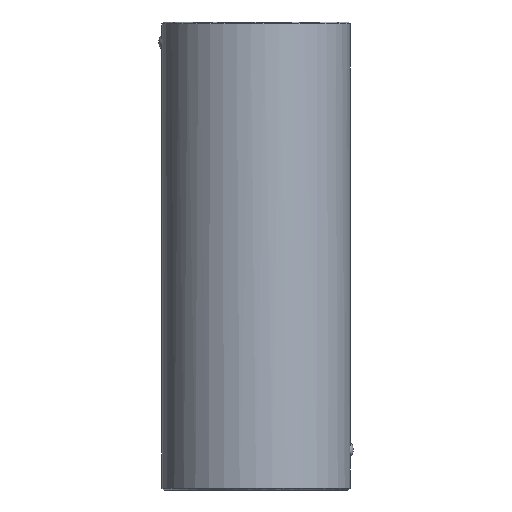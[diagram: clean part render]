
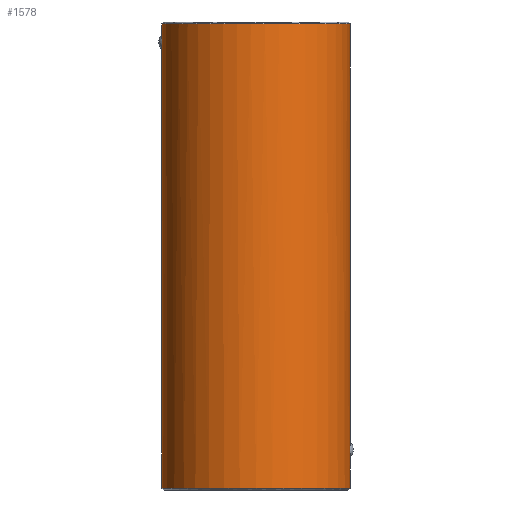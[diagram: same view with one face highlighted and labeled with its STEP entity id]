
A CAD part, front view. The second image highlights one B-rep face of the part: STEP entity #1578.
In plain terms, the highlighted cylindrical face has radius 14.5 mm (diameter 29 mm), a partial arc.
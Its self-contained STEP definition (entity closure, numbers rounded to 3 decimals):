
#1348=CARTESIAN_POINT('Vertex',(-14.5,0.,0.3)) ;
#1355=CARTESIAN_POINT('Vertex',(14.5,0.,0.3)) ;
#1358=CARTESIAN_POINT('Axis2P3D Location',(0.,0.,0.3)) ;
#1476=CARTESIAN_POINT('Axis2P3D Location',(0.,0.,72.)) ;
#1481=CARTESIAN_POINT('Line Origine',(14.5,0.,72.)) ;
#1485=CARTESIAN_POINT('Vertex',(14.5,0.,5.082)) ;
#1489=CARTESIAN_POINT('Control Point',(14.454,-1.158,6.201)) ;
#1490=CARTESIAN_POINT('Control Point',(14.454,-1.158,5.843)) ;
#1491=CARTESIAN_POINT('Control Point',(14.466,-1.009,5.481)) ;
#1492=CARTESIAN_POINT('Control Point',(14.489,-0.712,5.214)) ;
#1493=CARTESIAN_POINT('Control Point',(14.5,-0.358,5.082)) ;
#1494=CARTESIAN_POINT('Control Point',(14.5,0.,5.082)) ;
#1495=CARTESIAN_POINT('Vertex',(14.454,-1.158,6.201)) ;
#1499=CARTESIAN_POINT('Control Point',(14.5,0.,7.318)) ;
#1500=CARTESIAN_POINT('Control Point',(14.5,-0.358,7.318)) ;
#1501=CARTESIAN_POINT('Control Point',(14.489,-0.717,7.185)) ;
#1502=CARTESIAN_POINT('Control Point',(14.466,-1.009,6.916)) ;
#1503=CARTESIAN_POINT('Control Point',(14.454,-1.158,6.558)) ;
#1504=CARTESIAN_POINT('Control Point',(14.454,-1.158,6.201)) ;
#1505=CARTESIAN_POINT('Vertex',(14.5,0.,7.318)) ;
#1508=CARTESIAN_POINT('Line Origine',(14.5,0.,72.)) ;
#1512=CARTESIAN_POINT('Vertex',(14.5,0.,71.7)) ;
#1516=CARTESIAN_POINT('Control Point',(-14.5,0.,71.7)) ;
#1517=CARTESIAN_POINT('Control Point',(-14.5,-2.278,71.7)) ;
#1518=CARTESIAN_POINT('Control Point',(-14.053,-4.555,71.7)) ;
#1519=CARTESIAN_POINT('Control Point',(-13.158,-6.716,71.7)) ;
#1520=CARTESIAN_POINT('Control Point',(-10.569,-10.569,71.7)) ;
#1521=CARTESIAN_POINT('Control Point',(-6.716,-13.158,71.7)) ;
#1522=CARTESIAN_POINT('Control Point',(-4.555,-14.053,71.7)) ;
#1523=CARTESIAN_POINT('Control Point',(0.,-14.947,71.7)) ;
#1524=CARTESIAN_POINT('Control Point',(4.555,-14.053,71.7)) ;
#1525=CARTESIAN_POINT('Control Point',(6.716,-13.158,71.7)) ;
#1526=CARTESIAN_POINT('Control Point',(10.569,-10.569,71.7)) ;
#1527=CARTESIAN_POINT('Control Point',(13.158,-6.716,71.7)) ;
#1528=CARTESIAN_POINT('Control Point',(14.053,-4.555,71.7)) ;
#1529=CARTESIAN_POINT('Control Point',(14.5,-2.278,71.7)) ;
#1530=CARTESIAN_POINT('Control Point',(14.5,0.,71.7)) ;
#1531=CARTESIAN_POINT('Vertex',(-14.5,0.,71.7)) ;
#1534=CARTESIAN_POINT('Line Origine',(-14.5,0.,72.)) ;
#1538=CARTESIAN_POINT('Vertex',(-14.5,0.,70.018)) ;
#1542=CARTESIAN_POINT('Control Point',(-14.454,-1.158,68.899)) ;
#1543=CARTESIAN_POINT('Control Point',(-14.454,-1.158,69.257)) ;
#1544=CARTESIAN_POINT('Control Point',(-14.466,-1.009,69.619)) ;
#1545=CARTESIAN_POINT('Control Point',(-14.489,-0.712,69.886)) ;
#1546=CARTESIAN_POINT('Control Point',(-14.5,-0.358,70.018)) ;
#1547=CARTESIAN_POINT('Control Point',(-14.5,0.,70.018)) ;
#1548=CARTESIAN_POINT('Vertex',(-14.454,-1.158,68.899)) ;
#1552=CARTESIAN_POINT('Control Point',(-14.5,0.,67.782)) ;
#1553=CARTESIAN_POINT('Control Point',(-14.5,-0.358,67.782)) ;
#1554=CARTESIAN_POINT('Control Point',(-14.489,-0.717,67.915)) ;
#1555=CARTESIAN_POINT('Control Point',(-14.466,-1.009,68.184)) ;
#1556=CARTESIAN_POINT('Control Point',(-14.454,-1.158,68.542)) ;
#1557=CARTESIAN_POINT('Control Point',(-14.454,-1.158,68.899)) ;
#1558=CARTESIAN_POINT('Vertex',(-14.5,0.,67.782)) ;
#1561=CARTESIAN_POINT('Line Origine',(-14.5,0.,72.)) ;
#1359=DIRECTION('Axis2P3D Direction',(0.,-0.,1.)) ;
#1477=DIRECTION('Axis2P3D Direction',(0.,0.,-1.)) ;
#1478=DIRECTION('Axis2P3D XDirection',(1.,0.,0.)) ;
#1482=DIRECTION('Vector Direction',(0.,0.,-1.)) ;
#1509=DIRECTION('Vector Direction',(0.,0.,-1.)) ;
#1535=DIRECTION('Vector Direction',(0.,0.,-1.)) ;
#1562=DIRECTION('Vector Direction',(0.,0.,-1.)) ;
#1360=AXIS2_PLACEMENT_3D('Circle Axis2P3D',#1358,#1359,$) ;
#1479=AXIS2_PLACEMENT_3D('Cylinder Axis2P3D',#1476,#1477,#1478) ;
#1567=ORIENTED_EDGE('',*,*,#1487,.T.) ;
#1568=ORIENTED_EDGE('',*,*,#1497,.F.) ;
#1569=ORIENTED_EDGE('',*,*,#1507,.F.) ;
#1570=ORIENTED_EDGE('',*,*,#1514,.T.) ;
#1571=ORIENTED_EDGE('',*,*,#1533,.F.) ;
#1572=ORIENTED_EDGE('',*,*,#1540,.T.) ;
#1573=ORIENTED_EDGE('',*,*,#1550,.F.) ;
#1574=ORIENTED_EDGE('',*,*,#1560,.F.) ;
#1575=ORIENTED_EDGE('',*,*,#1565,.T.) ;
#1576=ORIENTED_EDGE('',*,*,#1362,.T.) ;
#1483=VECTOR('Line Direction',#1482,1.) ;
#1510=VECTOR('Line Direction',#1509,1.) ;
#1536=VECTOR('Line Direction',#1535,1.) ;
#1563=VECTOR('Line Direction',#1562,1.) ;
#1578=ADVANCED_FACE('730-24x72',(#1577),#1480,.T.) ;
#1488=B_SPLINE_CURVE_WITH_KNOTS('',5,(#1489,#1490,#1491,#1492,#1493,#1494),.UNSPECIFIED.,.F.,.U.,(6,6),(0.,2.538),.UNSPECIFIED.) ;
#1498=B_SPLINE_CURVE_WITH_KNOTS('',5,(#1499,#1500,#1501,#1502,#1503,#1504),.UNSPECIFIED.,.F.,.U.,(6,6),(0.,2.539),.UNSPECIFIED.) ;
#1515=B_SPLINE_CURVE_WITH_KNOTS('',5,(#1516,#1517,#1518,#1519,#1520,#1521,#1522,#1523,#1524,#1525,#1526,#1527,#1528,#1529,#1530),.UNSPECIFIED.,.F.,.U.,(6,3,3,3,6),(-22.777,-11.388,0.,11.388,22.777),.UNSPECIFIED.) ;
#1541=B_SPLINE_CURVE_WITH_KNOTS('',5,(#1542,#1543,#1544,#1545,#1546,#1547),.UNSPECIFIED.,.F.,.U.,(6,6),(0.,2.538),.UNSPECIFIED.) ;
#1551=B_SPLINE_CURVE_WITH_KNOTS('',5,(#1552,#1553,#1554,#1555,#1556,#1557),.UNSPECIFIED.,.F.,.U.,(6,6),(0.,2.539),.UNSPECIFIED.) ;
#1361=CIRCLE('generated circle',#1360,14.5) ;
#1480=CYLINDRICAL_SURFACE('generated cylinder',#1479,14.5) ;
#1362=EDGE_CURVE('',#1349,#1356,#1361,.T.) ;
#1487=EDGE_CURVE('',#1356,#1486,#1484,.F.) ;
#1497=EDGE_CURVE('',#1496,#1486,#1488,.T.) ;
#1507=EDGE_CURVE('',#1506,#1496,#1498,.T.) ;
#1514=EDGE_CURVE('',#1506,#1513,#1511,.F.) ;
#1533=EDGE_CURVE('',#1532,#1513,#1515,.T.) ;
#1540=EDGE_CURVE('',#1532,#1539,#1537,.T.) ;
#1550=EDGE_CURVE('',#1549,#1539,#1541,.T.) ;
#1560=EDGE_CURVE('',#1559,#1549,#1551,.T.) ;
#1565=EDGE_CURVE('',#1559,#1349,#1564,.T.) ;
#1566=EDGE_LOOP('',(#1567,#1568,#1569,#1570,#1571,#1572,#1573,#1574,#1575,#1576)) ;
#1577=FACE_OUTER_BOUND('',#1566,.T.) ;
#1484=LINE('Line',#1481,#1483) ;
#1511=LINE('Line',#1508,#1510) ;
#1537=LINE('Line',#1534,#1536) ;
#1564=LINE('Line',#1561,#1563) ;
#1349=VERTEX_POINT('',#1348) ;
#1356=VERTEX_POINT('',#1355) ;
#1486=VERTEX_POINT('',#1485) ;
#1496=VERTEX_POINT('',#1495) ;
#1506=VERTEX_POINT('',#1505) ;
#1513=VERTEX_POINT('',#1512) ;
#1532=VERTEX_POINT('',#1531) ;
#1539=VERTEX_POINT('',#1538) ;
#1549=VERTEX_POINT('',#1548) ;
#1559=VERTEX_POINT('',#1558) ;
